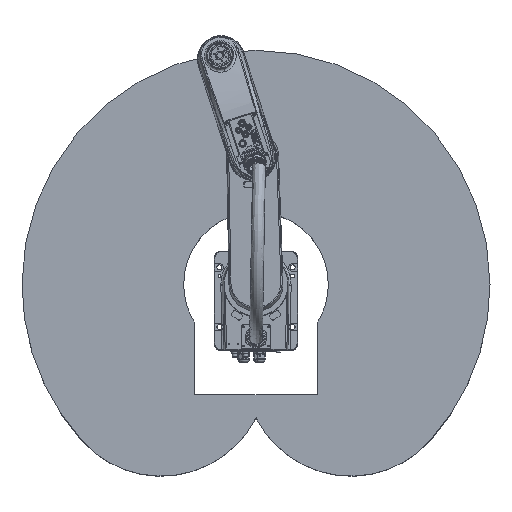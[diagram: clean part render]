
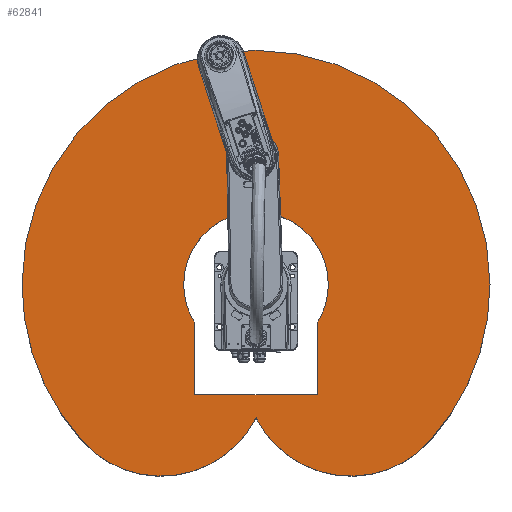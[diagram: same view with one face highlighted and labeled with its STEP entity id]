
A CAD part, top view. The second image highlights one B-rep face of the part: STEP entity #62841.
In plain terms, the highlighted planar face has unit normal (0, 0, 1).
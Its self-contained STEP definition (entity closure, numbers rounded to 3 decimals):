
#19 = DIRECTION ( 'NONE',  ( 1., 0., 0. ) ) ;
#1228 = ORIENTED_EDGE ( 'NONE', *, *, #110528, .F. ) ;
#3613 = VERTEX_POINT ( 'NONE', #55224 ) ;
#3832 = VERTEX_POINT ( 'NONE', #123752 ) ;
#4221 = ORIENTED_EDGE ( 'NONE', *, *, #150333, .F. ) ;
#4232 = DIRECTION ( 'NONE',  ( 1., 0., 0. ) ) ;
#6159 = EDGE_CURVE ( 'NONE', #91217, #7153, #132464, .T. ) ;
#7153 = VERTEX_POINT ( 'NONE', #96190 ) ;
#10685 = EDGE_LOOP ( 'NONE', ( #122443, #107755, #19465, #43757, #1228, #4221 ) ) ;
#11609 = CARTESIAN_POINT ( 'NONE',  ( 0., 0., 240. ) ) ;
#11693 = EDGE_LOOP ( 'NONE', ( #138594, #82451, #88338, #94987, #56096 ) ) ;
#17994 = DIRECTION ( 'NONE',  ( 1., 0., 0. ) ) ;
#19094 = EDGE_CURVE ( 'NONE', #3613, #65744, #71451, .T. ) ;
#19465 = ORIENTED_EDGE ( 'NONE', *, *, #76604, .F. ) ;
#21949 = EDGE_CURVE ( 'NONE', #125755, #92478, #37469, .T. ) ;
#25190 = DIRECTION ( 'NONE',  ( 0., 1., 0. ) ) ;
#27504 = AXIS2_PLACEMENT_3D ( 'NONE', #11609, #58805, #19 ) ;
#28409 = DIRECTION ( 'NONE',  ( 0., 0., 1. ) ) ;
#33441 = CARTESIAN_POINT ( 'NONE',  ( 143.5, 0., 240. ) ) ;
#34426 = AXIS2_PLACEMENT_3D ( 'NONE', #46010, #93109, #140170 ) ;
#34554 = VECTOR ( 'NONE', #114569, 1000. ) ;
#36254 = PLANE ( 'NONE',  #137595 ) ;
#37142 = VERTEX_POINT ( 'NONE', #56401 ) ;
#37469 = CIRCLE ( 'NONE', #57265, 170. ) ;
#40394 = EDGE_CURVE ( 'NONE', #65744, #50571, #126020, .T. ) ;
#40697 = CARTESIAN_POINT ( 'NONE',  ( -143.5, -91.147, 240. ) ) ;
#43756 = AXIS2_PLACEMENT_3D ( 'NONE', #120483, #95033, #50250 ) ;
#43757 = ORIENTED_EDGE ( 'NONE', *, *, #119572, .T. ) ;
#46010 = CARTESIAN_POINT ( 'NONE',  ( 0., 0., 240. ) ) ;
#47047 = CARTESIAN_POINT ( 'NONE',  ( 0., -313.86, 240. ) ) ;
#50250 = DIRECTION ( 'NONE',  ( 1., 0., 0. ) ) ;
#50571 = VERTEX_POINT ( 'NONE', #47047 ) ;
#54640 = EDGE_CURVE ( 'NONE', #7153, #3613, #63788, .T. ) ;
#55224 = CARTESIAN_POINT ( 'NONE',  ( -550., 0., 240. ) ) ;
#56096 = ORIENTED_EDGE ( 'NONE', *, *, #40394, .T. ) ;
#56401 = CARTESIAN_POINT ( 'NONE',  ( -170., 0., 240. ) ) ;
#57265 = AXIS2_PLACEMENT_3D ( 'NONE', #149440, #137096, #113955 ) ;
#58805 = DIRECTION ( 'NONE',  ( 0., 0., 1. ) ) ;
#59508 = AXIS2_PLACEMENT_3D ( 'NONE', #66829, #28409, #75569 ) ;
#60154 = VECTOR ( 'NONE', #25190, 1000. ) ;
#61258 = AXIS2_PLACEMENT_3D ( 'NONE', #86909, #142503, #4232 ) ;
#61752 = DIRECTION ( 'NONE',  ( 0., 0., 1. ) ) ;
#62745 = VECTOR ( 'NONE', #104794, 1000. ) ;
#62841 = ADVANCED_FACE ( 'NONE', ( #142032, #107321 ), #36254, .T. ) ;
#63788 = CIRCLE ( 'NONE', #61258, 550. ) ;
#65744 = VERTEX_POINT ( 'NONE', #76466 ) ;
#66829 = CARTESIAN_POINT ( 'NONE',  ( -222.943, -200.739, 240. ) ) ;
#67041 = AXIS2_PLACEMENT_3D ( 'NONE', #109590, #61752, #108821 ) ;
#67495 = EDGE_CURVE ( 'NONE', #128036, #125755, #116834, .T. ) ;
#71451 = CIRCLE ( 'NONE', #34426, 550. ) ;
#71841 = DIRECTION ( 'NONE',  ( 1., 0., 0. ) ) ;
#75445 = LINE ( 'NONE', #86212, #60154 ) ;
#75569 = DIRECTION ( 'NONE',  ( 1., 0., 0. ) ) ;
#76466 = CARTESIAN_POINT ( 'NONE',  ( -408.73, -368.022, 240. ) ) ;
#76604 = EDGE_CURVE ( 'NONE', #3832, #128036, #127935, .T. ) ;
#78222 = CARTESIAN_POINT ( 'NONE',  ( 143.5, -91.147, 240. ) ) ;
#82451 = ORIENTED_EDGE ( 'NONE', *, *, #6159, .T. ) ;
#86212 = CARTESIAN_POINT ( 'NONE',  ( -143.5, 0., 240. ) ) ;
#86909 = CARTESIAN_POINT ( 'NONE',  ( 0., 0., 240. ) ) ;
#87555 = CARTESIAN_POINT ( 'NONE',  ( 222.943, -200.739, 240. ) ) ;
#88338 = ORIENTED_EDGE ( 'NONE', *, *, #54640, .T. ) ;
#89252 = CIRCLE ( 'NONE', #27504, 170. ) ;
#90022 = CARTESIAN_POINT ( 'NONE',  ( 408.73, -368.022, 240. ) ) ;
#91217 = VERTEX_POINT ( 'NONE', #90022 ) ;
#92478 = VERTEX_POINT ( 'NONE', #98435 ) ;
#93109 = DIRECTION ( 'NONE',  ( 0., 0., 1. ) ) ;
#94987 = ORIENTED_EDGE ( 'NONE', *, *, #19094, .T. ) ;
#95033 = DIRECTION ( 'NONE',  ( 0., 0., 1. ) ) ;
#95813 = EDGE_CURVE ( 'NONE', #91217, #50571, #116186, .T. ) ;
#96190 = CARTESIAN_POINT ( 'NONE',  ( 550., 0., 240. ) ) ;
#98435 = CARTESIAN_POINT ( 'NONE',  ( 170., 0., 240. ) ) ;
#104794 = DIRECTION ( 'NONE',  ( 1., 0., 0. ) ) ;
#107321 = FACE_BOUND ( 'NONE', #10685, .T. ) ;
#107755 = ORIENTED_EDGE ( 'NONE', *, *, #67495, .F. ) ;
#108821 = DIRECTION ( 'NONE',  ( 1., 0., 0. ) ) ;
#109590 = CARTESIAN_POINT ( 'NONE',  ( 0., 0., 240. ) ) ;
#110528 = EDGE_CURVE ( 'NONE', #37142, #141635, #89252, .T. ) ;
#113955 = DIRECTION ( 'NONE',  ( 1., 0., 0. ) ) ;
#114569 = DIRECTION ( 'NONE',  ( 0., 1., 0. ) ) ;
#116186 = CIRCLE ( 'NONE', #128395, 250. ) ;
#116834 = LINE ( 'NONE', #33441, #34554 ) ;
#119572 = EDGE_CURVE ( 'NONE', #3832, #141635, #75445, .T. ) ;
#120483 = CARTESIAN_POINT ( 'NONE',  ( 0., 0., 240. ) ) ;
#122443 = ORIENTED_EDGE ( 'NONE', *, *, #21949, .F. ) ;
#123752 = CARTESIAN_POINT ( 'NONE',  ( -143.5, -260., 240. ) ) ;
#125755 = VERTEX_POINT ( 'NONE', #78222 ) ;
#126020 = CIRCLE ( 'NONE', #59508, 250. ) ;
#127188 = CARTESIAN_POINT ( 'NONE',  ( 0., -260., 240. ) ) ;
#127935 = LINE ( 'NONE', #127188, #62745 ) ;
#128036 = VERTEX_POINT ( 'NONE', #137397 ) ;
#128395 = AXIS2_PLACEMENT_3D ( 'NONE', #87555, #134629, #17994 ) ;
#130451 = CARTESIAN_POINT ( 'NONE',  ( 0., 0., 240. ) ) ;
#131220 = DIRECTION ( 'NONE',  ( 0., 0., 1. ) ) ;
#132464 = CIRCLE ( 'NONE', #43756, 550. ) ;
#133565 = CIRCLE ( 'NONE', #67041, 170. ) ;
#134629 = DIRECTION ( 'NONE',  ( 0., 0., -1. ) ) ;
#137096 = DIRECTION ( 'NONE',  ( 0., 0., 1. ) ) ;
#137397 = CARTESIAN_POINT ( 'NONE',  ( 143.5, -260., 240. ) ) ;
#137595 = AXIS2_PLACEMENT_3D ( 'NONE', #130451, #131220, #71841 ) ;
#138594 = ORIENTED_EDGE ( 'NONE', *, *, #95813, .F. ) ;
#140170 = DIRECTION ( 'NONE',  ( 1., 0., 0. ) ) ;
#141635 = VERTEX_POINT ( 'NONE', #40697 ) ;
#142032 = FACE_OUTER_BOUND ( 'NONE', #11693, .T. ) ;
#142503 = DIRECTION ( 'NONE',  ( 0., 0., 1. ) ) ;
#149440 = CARTESIAN_POINT ( 'NONE',  ( 0., 0., 240. ) ) ;
#150333 = EDGE_CURVE ( 'NONE', #92478, #37142, #133565, .T. ) ;
